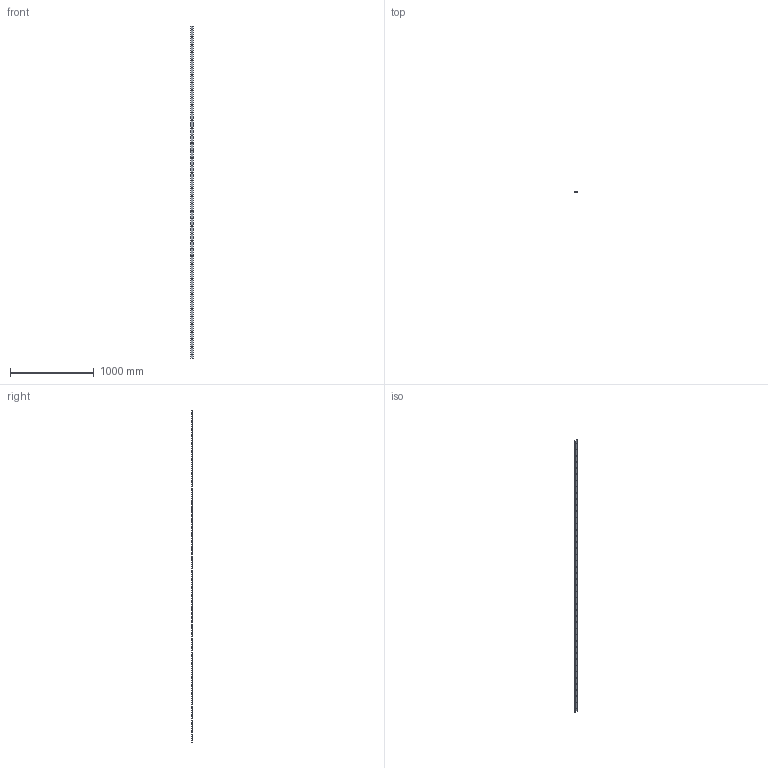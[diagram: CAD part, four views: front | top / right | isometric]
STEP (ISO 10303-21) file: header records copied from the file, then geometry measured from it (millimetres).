
FILE_DESCRIPTION(('STEP AP203'),'1');
FILE_NAME('flat_slide_sss353956.stp','2021-10-13T02:18:31',('TraceParts'),('TraceParts S.A.'),'Spatial InterOp 3D',' ',' ');
FILE_SCHEMA(('CONFIG_CONTROL_DESIGN'));
Length unit declared in the file: millimetre
Products named in the file (1): 1
Bounding box: 34.68 x 4.7 x 3956 mm (x, y, z)
Volume: 593322.8 mm3; surface area: 290888 mm2
Topology: 1 solids, 1 shells, 100 faces, 294 edges, 196 vertices
Faces by surface type: cylinder 92, plane 8
Entity records: 3662 total; most frequent: DIRECTION 680, CARTESIAN_POINT 591, ORIENTED_EDGE 588, EDGE_CURVE 294, AXIS2_PLACEMENT_3D 285, VERTEX_POINT 196, EDGE_LOOP 188, CIRCLE 184
